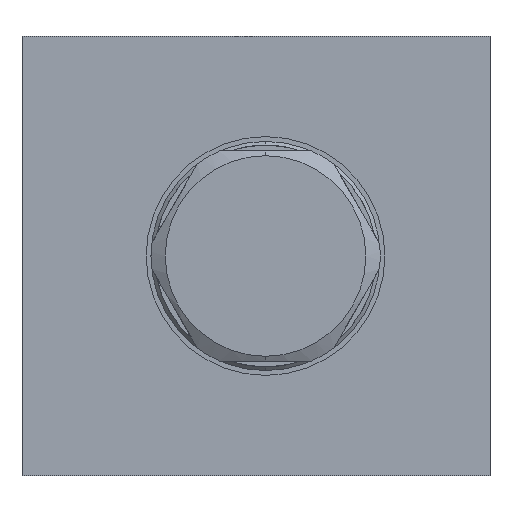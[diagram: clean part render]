
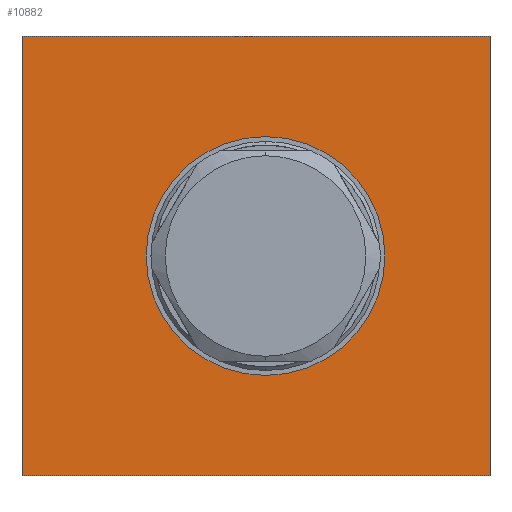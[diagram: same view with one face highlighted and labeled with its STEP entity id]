
A CAD part, left-side view. The second image highlights one B-rep face of the part: STEP entity #10882.
In plain terms, the highlighted planar face has unit normal (-1, 0, 0).
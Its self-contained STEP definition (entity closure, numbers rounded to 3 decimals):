
#27 = FACE_OUTER_BOUND ( 'NONE', #2093, .T. ) ;
#248 = CIRCLE ( 'NONE', #5708, 12.5 ) ;
#1439 = ORIENTED_EDGE ( 'NONE', *, *, #15744, .F. ) ;
#2093 = EDGE_LOOP ( 'NONE', ( #11762, #19171, #1439, #19796 ) ) ;
#3060 = CARTESIAN_POINT ( 'NONE',  ( 0., -24.5, 23. ) ) ;
#3788 = VECTOR ( 'NONE', #18653, 1000. ) ;
#4098 = VERTEX_POINT ( 'NONE', #16979 ) ;
#4667 = ORIENTED_EDGE ( 'NONE', *, *, #15883, .F. ) ;
#5391 = LINE ( 'NONE', #14630, #13265 ) ;
#5544 = CARTESIAN_POINT ( 'NONE',  ( 0., -1., 0. ) ) ;
#5708 = AXIS2_PLACEMENT_3D ( 'NONE', #6968, #20383, #8869 ) ;
#6768 = EDGE_CURVE ( 'NONE', #4098, #17093, #248, .T. ) ;
#6968 = CARTESIAN_POINT ( 'NONE',  ( 0., -1., 0. ) ) ;
#6975 = VERTEX_POINT ( 'NONE', #23250 ) ;
#7390 = AXIS2_PLACEMENT_3D ( 'NONE', #9280, #22680, #11222 ) ;
#7532 = DIRECTION ( 'NONE',  ( 0., -1., 0. ) ) ;
#8869 = DIRECTION ( 'NONE',  ( 0., -1., 0. ) ) ;
#9050 = CARTESIAN_POINT ( 'NONE',  ( 0., -24.5, 23. ) ) ;
#9052 = LINE ( 'NONE', #9050, #13569 ) ;
#9280 = CARTESIAN_POINT ( 'NONE',  ( 0., 0., 0. ) ) ;
#10072 = FACE_BOUND ( 'NONE', #20512, .T. ) ;
#10882 = ADVANCED_FACE ( 'NONE', ( #27, #10072 ), #20723, .T. ) ;
#11222 = DIRECTION ( 'NONE',  ( 0., 0., 1. ) ) ;
#11320 = CARTESIAN_POINT ( 'NONE',  ( 0., 24.5, 23. ) ) ;
#11408 = CARTESIAN_POINT ( 'NONE',  ( 0., -24.5, -23. ) ) ;
#11671 = CARTESIAN_POINT ( 'NONE',  ( 0., 24.5, 23. ) ) ;
#11762 = ORIENTED_EDGE ( 'NONE', *, *, #15649, .F. ) ;
#13242 = DIRECTION ( 'NONE',  ( 0., 0., 1. ) ) ;
#13265 = VECTOR ( 'NONE', #22232, 1000. ) ;
#13528 = VERTEX_POINT ( 'NONE', #11671 ) ;
#13569 = VECTOR ( 'NONE', #24334, 1000. ) ;
#13852 = VECTOR ( 'NONE', #13242, 1000. ) ;
#14630 = CARTESIAN_POINT ( 'NONE',  ( 0., -24.5, -23. ) ) ;
#15649 = EDGE_CURVE ( 'NONE', #21931, #6975, #5391, .T. ) ;
#15722 = EDGE_CURVE ( 'NONE', #21406, #21931, #19293, .T. ) ;
#15744 = EDGE_CURVE ( 'NONE', #13528, #21406, #9052, .T. ) ;
#15879 = EDGE_CURVE ( 'NONE', #6975, #13528, #24585, .T. ) ;
#15883 = EDGE_CURVE ( 'NONE', #17093, #4098, #18987, .T. ) ;
#16979 = CARTESIAN_POINT ( 'NONE',  ( 0., 11.5, 0. ) ) ;
#17093 = VERTEX_POINT ( 'NONE', #23458 ) ;
#18653 = DIRECTION ( 'NONE',  ( 0., 0., -1. ) ) ;
#18987 = CIRCLE ( 'NONE', #22236, 12.5 ) ;
#19071 = DIRECTION ( 'NONE',  ( -1., 0., 0. ) ) ;
#19171 = ORIENTED_EDGE ( 'NONE', *, *, #15722, .F. ) ;
#19293 = LINE ( 'NONE', #3060, #3788 ) ;
#19796 = ORIENTED_EDGE ( 'NONE', *, *, #15879, .F. ) ;
#20383 = DIRECTION ( 'NONE',  ( -1., 0., 0. ) ) ;
#20512 = EDGE_LOOP ( 'NONE', ( #4667, #22057 ) ) ;
#20723 = PLANE ( 'NONE',  #7390 ) ;
#21406 = VERTEX_POINT ( 'NONE', #23612 ) ;
#21931 = VERTEX_POINT ( 'NONE', #11408 ) ;
#22057 = ORIENTED_EDGE ( 'NONE', *, *, #6768, .F. ) ;
#22232 = DIRECTION ( 'NONE',  ( 0., 1., 0. ) ) ;
#22236 = AXIS2_PLACEMENT_3D ( 'NONE', #5544, #19071, #7532 ) ;
#22680 = DIRECTION ( 'NONE',  ( -1., 0., 0. ) ) ;
#23250 = CARTESIAN_POINT ( 'NONE',  ( 0., 24.5, -23. ) ) ;
#23458 = CARTESIAN_POINT ( 'NONE',  ( 0., -13.5, 0. ) ) ;
#23612 = CARTESIAN_POINT ( 'NONE',  ( 0., -24.5, 23. ) ) ;
#24334 = DIRECTION ( 'NONE',  ( 0., -1., 0. ) ) ;
#24585 = LINE ( 'NONE', #11320, #13852 ) ;
